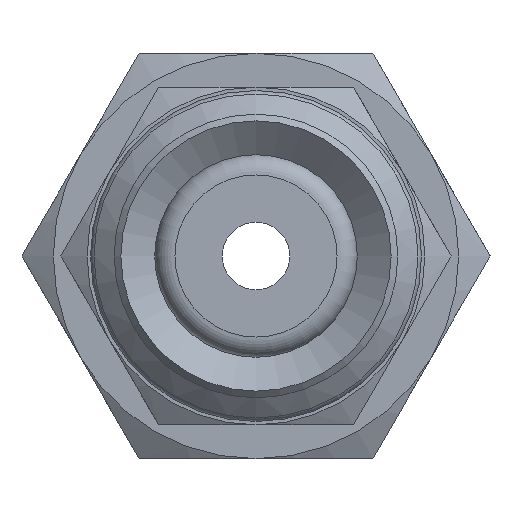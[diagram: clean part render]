
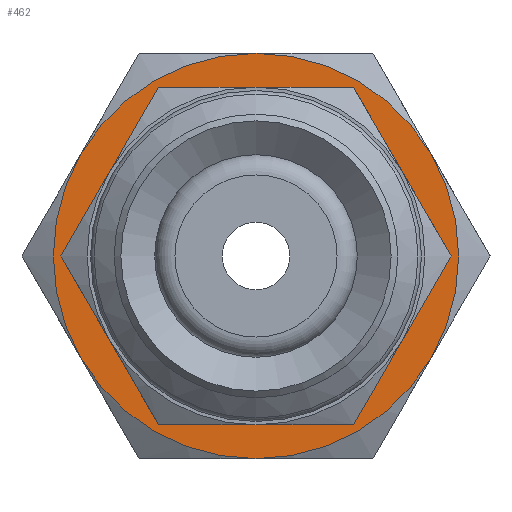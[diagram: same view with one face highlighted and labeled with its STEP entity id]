
A CAD part, front view. The second image highlights one B-rep face of the part: STEP entity #462.
In plain terms, the highlighted planar face has unit normal (0, -1, 0) as drawn and (-1, 0, 0) by its records, which use the part's own axes.
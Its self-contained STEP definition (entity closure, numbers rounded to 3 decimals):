
#462=ADVANCED_FACE('',(#646,#647),#648,.F.);
#646=FACE_BOUND('',#886,.T.);
#647=FACE_OUTER_BOUND('',#887,.T.);
#648=PLANE('',#888);
#886=EDGE_LOOP('',(#1418));
#887=EDGE_LOOP('',(#1419,#1420,#1421,#1422,#1423,#1424));
#888=AXIS2_PLACEMENT_3D('',#1425,#1426,#1427);
#1418=ORIENTED_EDGE('',*,*,#1747,.T.);
#1419=ORIENTED_EDGE('',*,*,#1738,.F.);
#1420=ORIENTED_EDGE('',*,*,#1709,.F.);
#1421=ORIENTED_EDGE('',*,*,#1739,.F.);
#1422=ORIENTED_EDGE('',*,*,#1724,.F.);
#1423=ORIENTED_EDGE('',*,*,#1723,.F.);
#1424=ORIENTED_EDGE('',*,*,#1737,.F.);
#1425=CARTESIAN_POINT('',(0.,0.0,0.0));
#1426=DIRECTION('',(1.0,0.0,0.0));
#1427=DIRECTION('',(0.0,1.0,0.0));
#1709=EDGE_CURVE('',#1947,#1950,#1951,.T.);
#1723=EDGE_CURVE('',#1973,#1970,#1975,.T.);
#1724=EDGE_CURVE('',#1970,#1976,#1977,.T.);
#1737=EDGE_CURVE('',#1967,#1973,#1995,.T.);
#1738=EDGE_CURVE('',#1950,#1967,#1996,.T.);
#1739=EDGE_CURVE('',#1976,#1947,#1997,.T.);
#1747=EDGE_CURVE('',#2008,#2008,#2009,.T.);
#1947=VERTEX_POINT('',#2347);
#1950=VERTEX_POINT('',#2370);
#1951=CIRCLE('',#2371,6.0);
#1967=VERTEX_POINT('',#2449);
#1970=VERTEX_POINT('',#2472);
#1973=VERTEX_POINT('',#2485);
#1975=CIRCLE('',#2497,6.0);
#1976=VERTEX_POINT('',#2498);
#1977=CIRCLE('',#2499,6.0);
#1995=CIRCLE('',#2599,6.0);
#1996=CIRCLE('',#2600,6.0);
#1997=CIRCLE('',#2601,6.0);
#2008=VERTEX_POINT('',#2632);
#2009=CIRCLE('',#2633,4.0);
#2347=CARTESIAN_POINT('',(0.,0.0,-6.0));
#2370=CARTESIAN_POINT('',(0.,5.196,-3.0));
#2371=AXIS2_PLACEMENT_3D('',#2855,#2856,#2857);
#2449=CARTESIAN_POINT('',(0.,5.196,3.0));
#2472=CARTESIAN_POINT('',(0.,-5.196,3.0));
#2485=CARTESIAN_POINT('',(0.,0.0,6.0));
#2497=AXIS2_PLACEMENT_3D('',#2863,#2864,#2865);
#2498=CARTESIAN_POINT('',(0.,-5.196,-3.0));
#2499=AXIS2_PLACEMENT_3D('',#2866,#2867,#2868);
#2599=AXIS2_PLACEMENT_3D('',#2877,#2878,#2879);
#2600=AXIS2_PLACEMENT_3D('',#2880,#2881,#2882);
#2601=AXIS2_PLACEMENT_3D('',#2883,#2884,#2885);
#2632=CARTESIAN_POINT('',(0.,0.0,-4.0));
#2633=AXIS2_PLACEMENT_3D('',#2901,#2902,#2903);
#2855=CARTESIAN_POINT('',(0.,0.0,0.0));
#2856=DIRECTION('',(1.0,0.0,0.0));
#2857=DIRECTION('',(0.0,0.0,-1.0));
#2863=CARTESIAN_POINT('',(0.,0.0,0.0));
#2864=DIRECTION('',(1.0,0.0,0.0));
#2865=DIRECTION('',(0.0,0.0,-1.0));
#2866=CARTESIAN_POINT('',(0.,0.0,0.0));
#2867=DIRECTION('',(1.0,0.0,0.0));
#2868=DIRECTION('',(0.0,0.0,-1.0));
#2877=CARTESIAN_POINT('',(0.,0.0,0.0));
#2878=DIRECTION('',(1.0,0.0,0.0));
#2879=DIRECTION('',(0.0,0.0,-1.0));
#2880=CARTESIAN_POINT('',(0.,0.0,0.0));
#2881=DIRECTION('',(1.0,0.0,0.0));
#2882=DIRECTION('',(0.0,0.0,-1.0));
#2883=CARTESIAN_POINT('',(0.,0.0,0.0));
#2884=DIRECTION('',(1.0,0.0,0.0));
#2885=DIRECTION('',(0.0,0.0,-1.0));
#2901=CARTESIAN_POINT('',(0.,0.0,0.0));
#2902=DIRECTION('',(1.0,0.0,0.0));
#2903=DIRECTION('',(0.0,0.0,-1.0));
